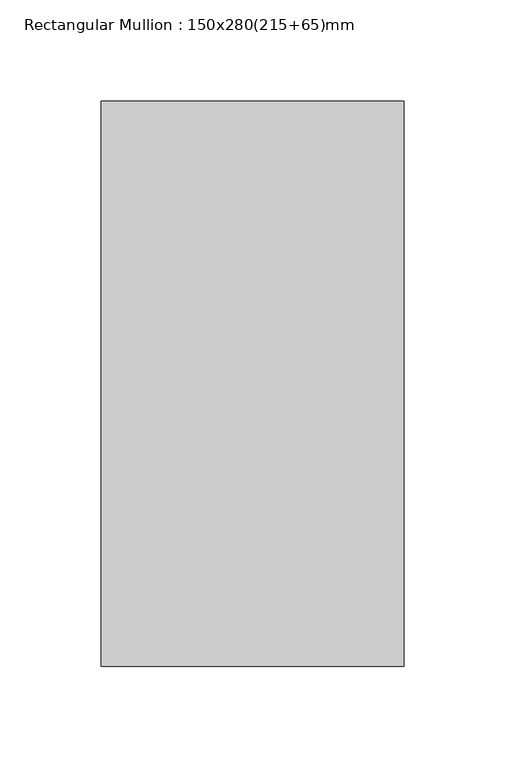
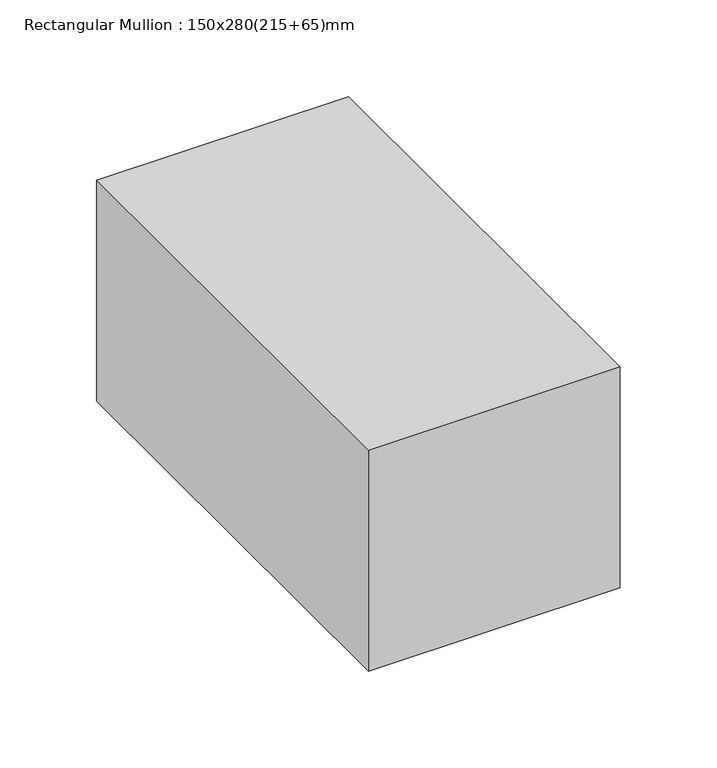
"""IFC4 building model written with IfcOpenShell, lengths in millimetres: member geometry, Rectangular Mullion : 150x280(215+65)mm."""

from ifc_helpers import new_model, si_unit, frame, origin, place, context, project, spatial, polyline, outline, extrude, source, transform, mapped, element, save


def rectangular_mullion_150x280_215_65_mm_8a4a20fe(model_context):
    return source(origin(), model_context, "Body", "SweptSolid", [
        extrude(outline(polyline([(0.0, 215.0), (0.0, -65.0), (-150.0, -65.0), (-150.0, 215.0), (0.0, 215.0)])), frame((0.0, 0.0, -139.0), z_axis=(0.0, 0.0, 1.0), x_axis=(1.0, 0.0, 0.0)), (0.0, 0.0, 1.0), 139.0),
    ])


if __name__ == "__main__":
    model = new_model("IFC4")
    model_context = context("Model", 3, world=origin())
    ifc_project = project(units=[si_unit("LENGTHUNIT", "METRE", prefix="MILLI")], contexts=[model_context])
    site = spatial("IfcSite", under=ifc_project)
    building = spatial("IfcBuilding", under=site)
    placement = place(None, origin())
    rectangular_mullion_150x280_215_65_mm_shape = rectangular_mullion_150x280_215_65_mm_8a4a20fe(model_context)
    element("IfcMember", 1, ObjectType="Rectangular Mullion : 150x280(215+65)mm", at=placement, inside=building, context=model_context, shape_type="MappedRepresentation", body=[
        mapped(rectangular_mullion_150x280_215_65_mm_shape, transform((0.0, 0.0, 0.0), x_axis=(1.0, 0.0, 0.0), y_axis=(0.0, 1.0, 0.0), z_axis=(0.0, 0.0, 1.0))),
    ])
    save(model, "model.ifc")
